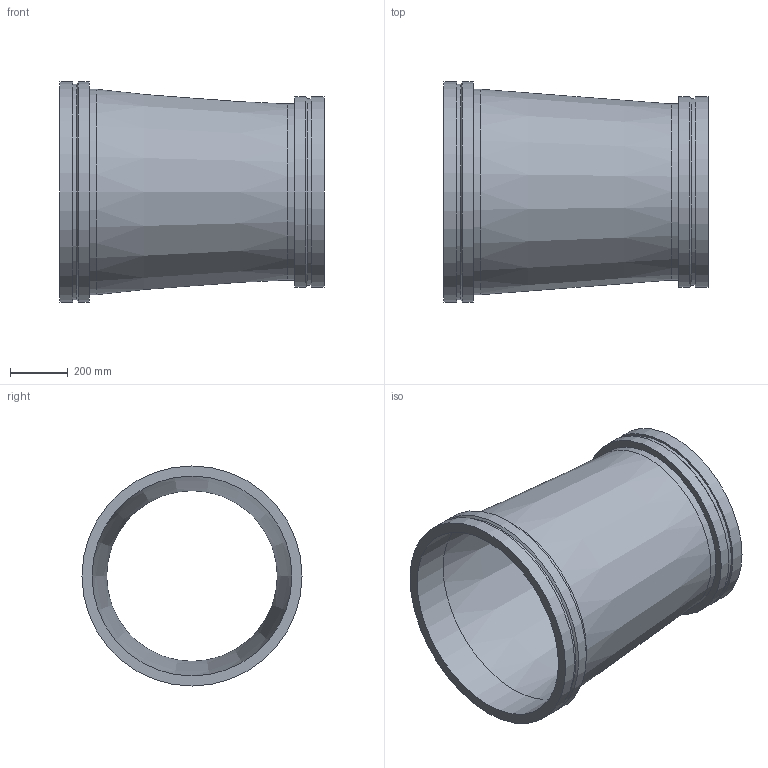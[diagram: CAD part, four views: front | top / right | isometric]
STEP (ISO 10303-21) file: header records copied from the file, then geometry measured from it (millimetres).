
FILE_DESCRIPTION(/* description */ ('VIC REDUCER CONCENTRIC No W50 VR','CAx-IF Rec.Pracs.---Representation and Presentation of Product Manufacturing Information (PMI)---4.0---2014-10-13'),/* implementation_level */ '2;1');
FILE_NAME(/* name */ 'C:\Users\kkamble\AppData\Roaming\Autodesk\ApplicationPlugins\Back Up\Victaulic_Vic-Ring_Reducer Concentric_No W50 VR (AGR)\Victaulic_Vic-Ring_Reducer Concentric_No W50 VR (AGR)_28.0x24.0 (700x600).stp',/* time_stamp */ '2020-09-10T11:46:15+05:00',/* author */ ('cps_temp'),/* organization */ ('Victaulic'),/* preprocessor_version */ 'ST-DEVELOPER v17.2',/* originating_system */ 'Autodesk Inventor 2019',/* authorisation */ '');
FILE_SCHEMA (('AP242_MANAGED_MODEL_BASED_3D_ENGINEERING_MIM_LF { 1 0 10303 442 1 1 4 }'));
Length unit declared in the file: inch
Products named in the file (1): W50 VR-28.0x24.0
Bounding box: 914.4 x 762 x 762 mm (x, y, z)
Volume: 28396689.9 mm3; surface area: 4083197 mm2
Topology: 1 solids, 1 shells, 20 faces, 54 edges, 40 vertices
Faces by surface type: cylinder 10, plane 6, cone 4
Full cylindrical faces by diameter (mm): 590.55 x1, 609.6 x1, 645.922 x1, 660.4 x2, 692.15 x1, 711.2 x1, 747.522 x1, 762 x2
Entity records: 830 total; most frequent: DIRECTION 162, CARTESIAN_POINT 132, ORIENTED_EDGE 108, AXIS2_PLACEMENT_3D 74, EDGE_CURVE 54, CIRCLE 40, VERTEX_POINT 40, EDGE_LOOP 26
